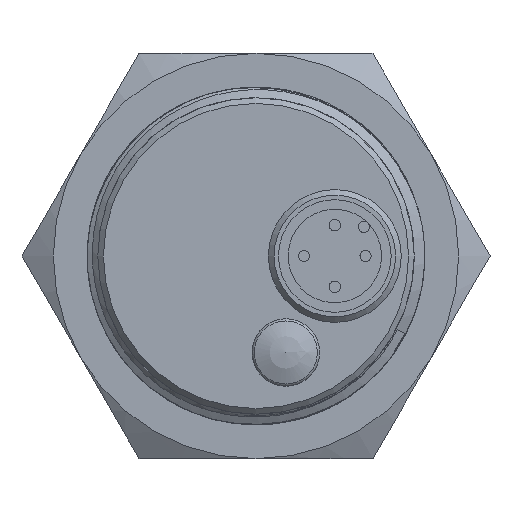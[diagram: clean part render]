
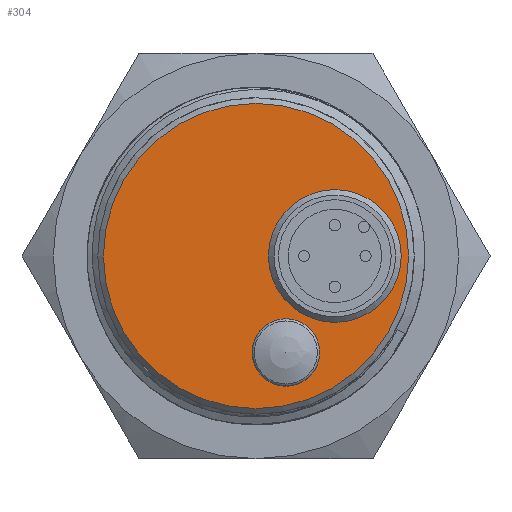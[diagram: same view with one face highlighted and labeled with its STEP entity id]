
A CAD part, front view. The second image highlights one B-rep face of the part: STEP entity #304.
In plain terms, the highlighted planar face has unit normal (0, -1, 0).
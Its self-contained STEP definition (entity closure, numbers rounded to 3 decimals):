
#205=FACE_BOUND('',#471,.T.);
#206=FACE_BOUND('',#472,.T.);
#207=FACE_BOUND('',#473,.T.);
#258=PLANE('',#1311);
#304=ADVANCED_FACE('',(#205,#206,#207),#258,.T.);
#471=EDGE_LOOP('',(#729));
#472=EDGE_LOOP('',(#730));
#473=EDGE_LOOP('',(#731));
#729=ORIENTED_EDGE('',*,*,#1104,.T.);
#730=ORIENTED_EDGE('',*,*,#1105,.T.);
#731=ORIENTED_EDGE('',*,*,#1106,.F.);
#984=VERTEX_POINT('',#6051);
#985=VERTEX_POINT('',#6053);
#986=VERTEX_POINT('',#6055);
#1104=EDGE_CURVE('',#984,#984,#1227,.T.);
#1105=EDGE_CURVE('',#985,#985,#1228,.T.);
#1106=EDGE_CURVE('',#986,#986,#1229,.T.);
#1227=CIRCLE('',#1308,13.55);
#1228=CIRCLE('',#1309,5.75);
#1229=CIRCLE('',#1310,3.);
#1308=AXIS2_PLACEMENT_3D('',#6050,#1512,#1513);
#1309=AXIS2_PLACEMENT_3D('',#6052,#1514,#1515);
#1310=AXIS2_PLACEMENT_3D('',#6054,#1516,#1517);
#1311=AXIS2_PLACEMENT_3D('',#6056,#1518,#1519);
#1512=DIRECTION('',(0.,-1.,0.));
#1513=DIRECTION('',(0.,0.,-1.));
#1514=DIRECTION('',(0.,1.,0.));
#1515=DIRECTION('',(-1.,0.,0.));
#1516=DIRECTION('',(0.,-1.,0.));
#1517=DIRECTION('',(0.,0.,-1.));
#1518=DIRECTION('',(0.,-1.,0.));
#1519=DIRECTION('',(-1.,0.,0.));
#6050=CARTESIAN_POINT('',(0.,-37.,0.));
#6051=CARTESIAN_POINT('',(0.,-37.,-13.55));
#6052=CARTESIAN_POINT('',(7.,-37.,0.));
#6053=CARTESIAN_POINT('',(1.25,-37.,0.));
#6054=CARTESIAN_POINT('',(2.65,-37.,-8.57));
#6055=CARTESIAN_POINT('',(2.65,-37.,-11.57));
#6056=CARTESIAN_POINT('',(15.455,-37.,15.455));
